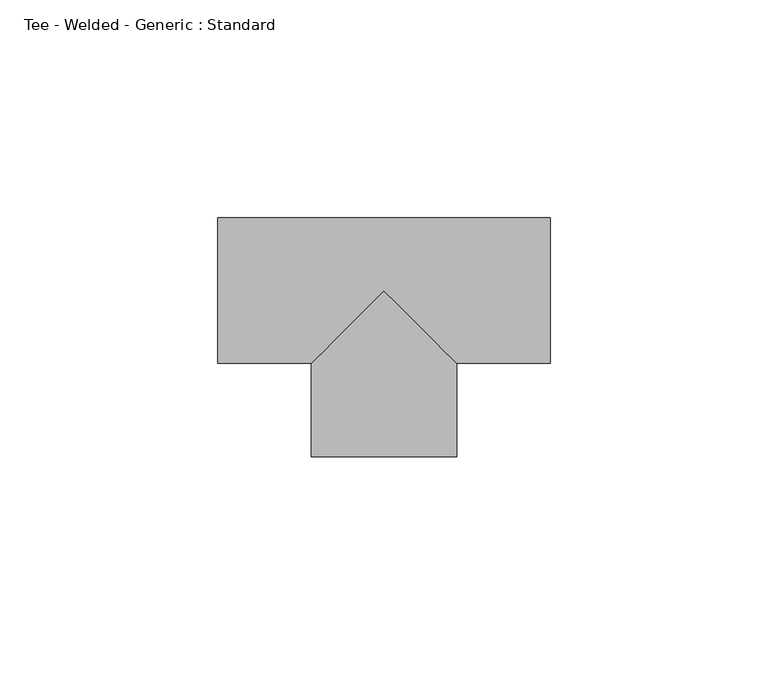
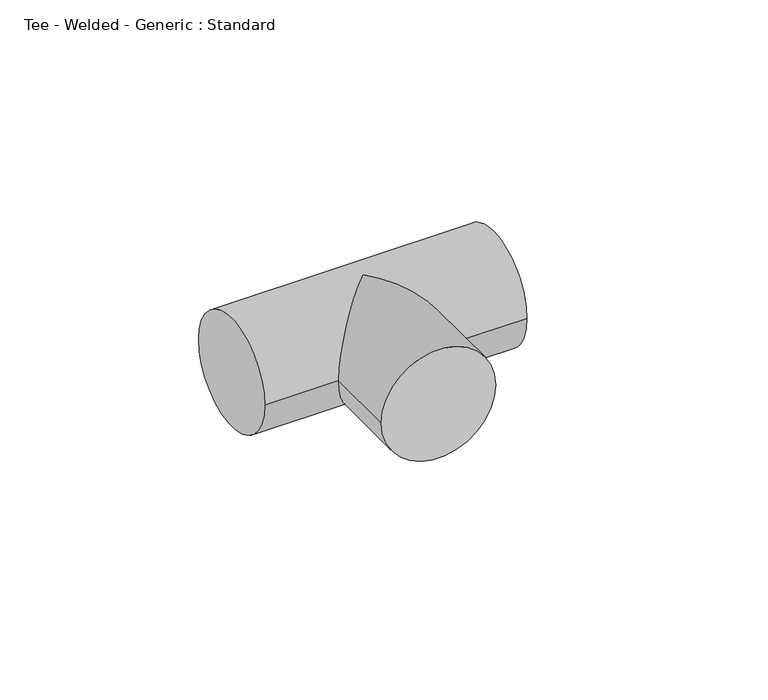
"""IFC4 building model written with IfcOpenShell, lengths in millimetres: pipe fitting geometry, Tee - Welded - Generic : Standard."""

from ifc_helpers import new_model, si_unit, frame, origin, place, context, project, spatial, circle_curve, ellipse_curve, source, transform, mapped, element, save
from ifc_brep_helpers import plane_surface, cylinder_surface, advanced_brep


def tee_welded_generic_standard_c1ad6c2b(model_context):
    return source(origin(), model_context, "Body", "AdvancedBrep", [
        advanced_brep(
        [(-38.1, -16.66875, 0.0), (-38.1, 16.66875, 0.0), (38.1, -16.66875, 0.0), (38.1, 16.66875, 0.0), (-16.6674292, -16.66875, 0.0), (0.0, 0.0, 16.66875), (16.6700709, -16.66875, 0.0), (0.0, 0.0, -16.66875), (-16.6657308, -38.1013208, 0.0), (16.6717691, -38.098679, 0.0)],
        [
            (0, 1, circle_curve(frame((-38.1, 0.0, 0.0), z_axis=(-1.0, 0.0, 0.0), x_axis=(0.0, 1.0, 0.0)), 16.66875)),
            (1, 0, circle_curve(frame((-38.1, 0.0, 0.0), z_axis=(-1.0, 0.0, 0.0), x_axis=(0.0, 1.0, 0.0)), 16.66875)),
            (2, 3, circle_curve(frame((38.1, 0.0, 0.0), z_axis=(1.0, 0.0, 0.0), x_axis=(0.0, 1.0, 0.0)), 16.66875)),
            (3, 2, circle_curve(frame((38.1, 0.0, 0.0), z_axis=(1.0, 0.0, 0.0), x_axis=(0.0, 1.0, 0.0)), 16.66875)),
            (0, 4),
            (4, 5, ellipse_curve(frame((0.0, 0.0, 0.0), z_axis=(-0.7071347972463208, 0.7070787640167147, 0.0), x_axis=(-0.7070787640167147, -0.7071347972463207, 0.0)), 23.5722384, 16.66875)),
            (5, 6, ellipse_curve(frame((0.0, 0.0, 0.0), z_axis=(0.7070787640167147, 0.7071347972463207, 0.0), x_axis=(-0.7071347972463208, 0.7070787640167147, 0.0)), 23.5741064, 16.66875)),
            (6, 2),
            (3, 1),
            (6, 7, ellipse_curve(frame((0.0, 0.0, 0.0), z_axis=(0.7070787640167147, 0.7071347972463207, 0.0), x_axis=(-0.7071347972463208, 0.7070787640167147, 0.0)), 23.5741064, 16.66875)),
            (7, 4, ellipse_curve(frame((0.0, 0.0, 0.0), z_axis=(-0.7071347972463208, 0.7070787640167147, 0.0), x_axis=(-0.7070787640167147, -0.7071347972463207, 0.0)), 23.5722384, 16.66875)),
            (8, 9, circle_curve(frame((0.0030192, -38.0999999, 0.0), z_axis=(7.924295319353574e-05, -0.9999999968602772, 0.0), x_axis=(0.9999999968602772, 7.924295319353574e-05, 0.0)), 16.66875)),
            (9, 8, circle_curve(frame((0.0030192, -38.0999999, 0.0), z_axis=(7.924295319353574e-05, -0.9999999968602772, 0.0), x_axis=(0.9999999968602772, 7.924295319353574e-05, 0.0)), 16.66875)),
            (9, 6),
            (4, 8),
        ],
        [
            plane_surface(frame((-38.1, 0.0, 0.0), z_axis=(-1.0, 0.0, 0.0), x_axis=(0.0, 0.0, 1.0))),
            plane_surface(frame((38.1, 0.0, 0.0), z_axis=(1.0, 0.0, 0.0), x_axis=(0.0, 0.0, 1.0))),
            cylinder_surface(frame((-38.1, 0.0, 0.0), z_axis=(-1.0, 0.0, 0.0), x_axis=(0.0, 1.0, 0.0)), 16.66875),
            plane_surface(frame((0.0030192, -38.0999999, 0.0), z_axis=(7.924295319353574e-05, -0.9999999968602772, 0.0), x_axis=(0.0, 0.0, 1.0))),
            cylinder_surface(frame((0.0, 0.0, 0.0), z_axis=(-7.924295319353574e-05, 0.9999999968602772, 0.0), x_axis=(0.9999999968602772, 7.924295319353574e-05, 0.0)), 16.66875),
        ],
        [
            (0, [[1, 2]]),
            (1, [[3, 4]]),
            (2, [[-1, 5, 6, 7, 8, -4, 9]]),
            (2, [[-2, -9, -3, -8, 10, 11, -5]]),
            (3, [[12, 13]]),
            (4, [[-13, 14, -7, -6, 15]]),
            (4, [[-12, -15, -11, -10, -14]]),
        ],
    ),
    ])


if __name__ == "__main__":
    model = new_model("IFC4")
    model_context = context("Model", 3, world=origin())
    ifc_project = project(units=[si_unit("LENGTHUNIT", "METRE", prefix="MILLI")], contexts=[model_context])
    site = spatial("IfcSite", under=ifc_project)
    building = spatial("IfcBuilding", under=site)
    placement = place(None, origin())
    tee_welded_generic_standard_shape = tee_welded_generic_standard_c1ad6c2b(model_context)
    element("IfcPipeFitting", 1, ObjectType="Tee - Welded - Generic : Standard", at=placement, inside=building, context=model_context, shape_type="MappedRepresentation", body=[
        mapped(tee_welded_generic_standard_shape, transform((0.0, 0.0, 0.0), x_axis=(1.0, 0.0, 0.0), y_axis=(0.0, 1.0, 0.0), z_axis=(0.0, 0.0, 1.0))),
    ])
    save(model, "model.ifc")
